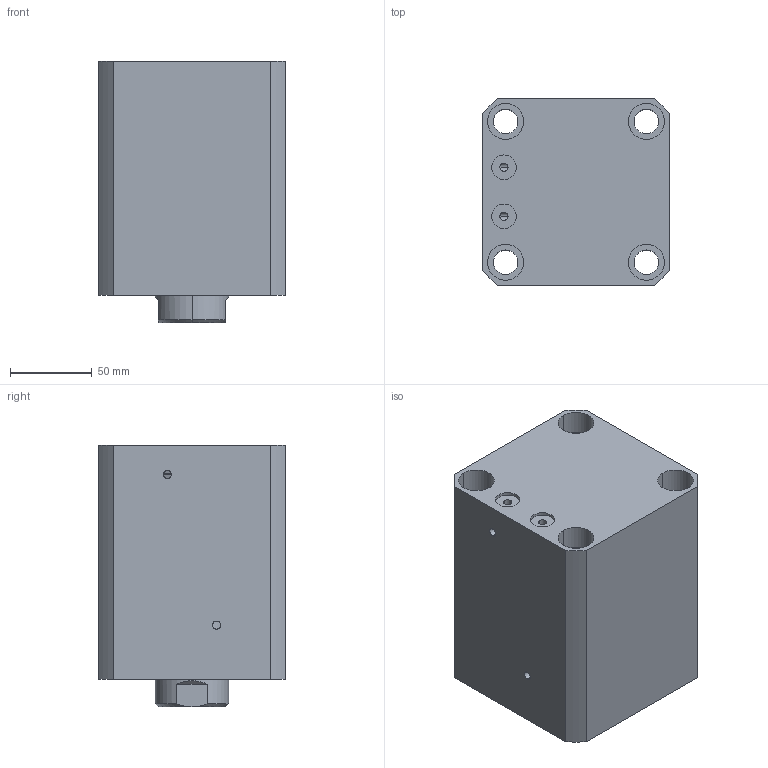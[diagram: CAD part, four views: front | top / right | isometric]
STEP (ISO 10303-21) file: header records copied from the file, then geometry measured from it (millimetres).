
FILE_DESCRIPTION (( 'STEP AP214' ), '1' );
FILE_NAME ('chtb-sdmb80x65n_asm.STEP', '2018-05-25T04:52:36', ( 'Windows' ), ( 'Microsoft' ), 'SwSTEP 2.0', 'SolidWorks 2015', '' );
FILE_SCHEMA (( 'AUTOMOTIVE_DESIGN' ));
Length unit declared in the file: millimetre
Products named in the file (4): CHTB-SDMB80X65NBT; CHTB-SD80X65NHSG; CHTB-SD80QG; chtb-sdmb80x65n_asm
Assembly tree (3 placements, depth 2):
  chtb-sdmb80x65n_asm
    CHTB-SD80QG
    CHTB-SD80X65NHSG
    CHTB-SDMB80X65NBT
Bounding box: 114 x 114 x 160 mm (x, y, z)
Volume: 1473500.4 mm3; surface area: 216871.9 mm2
Topology: 3 solids, 3 shells, 190 faces, 516 edges, 345 vertices
Faces by surface type: cylinder 107, plane 35, torus 18, cone 16, bspline 14
Entity records: 15174 total; most frequent: CARTESIAN_POINT 10467, ORIENTED_EDGE 1020, DIRECTION 879, EDGE_CURVE 510, AXIS2_PLACEMENT_3D 368, VERTEX_POINT 345, EDGE_LOOP 227, ADVANCED_FACE 190
